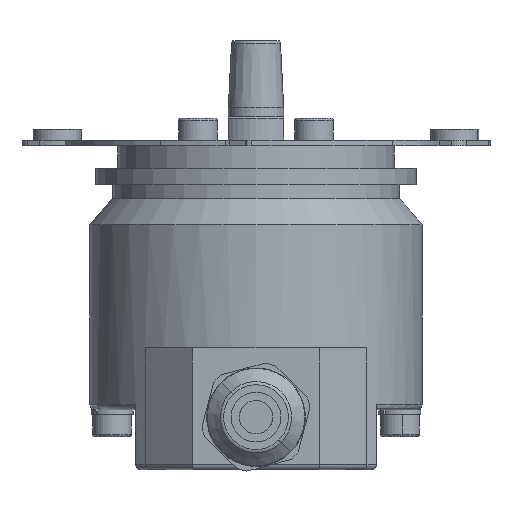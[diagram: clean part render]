
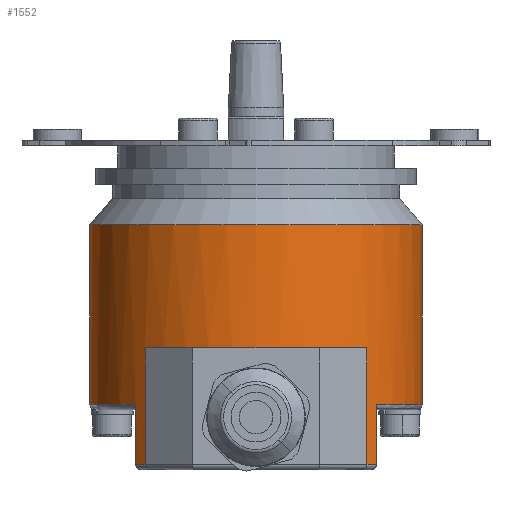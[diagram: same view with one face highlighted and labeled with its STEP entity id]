
A CAD part, front view. The second image highlights one B-rep face of the part: STEP entity #1552.
In plain terms, the highlighted cylindrical face has radius 30 mm (diameter 60 mm), a partial arc.
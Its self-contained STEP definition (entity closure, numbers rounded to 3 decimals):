
#116 = CARTESIAN_POINT ( 'NONE',  ( -20.053, -22.313, -57.5 ) ) ;
#254 = DIRECTION ( 'NONE',  ( 0., 0., -1. ) ) ;
#425 = CARTESIAN_POINT ( 'NONE',  ( 30., 0., -36. ) ) ;
#471 = LINE ( 'NONE', #2614, #2946 ) ;
#473 = VERTEX_POINT ( 'NONE', #10391 ) ;
#494 = ORIENTED_EDGE ( 'NONE', *, *, #14338, .F. ) ;
#727 = DIRECTION ( 'NONE',  ( 1., 0., 0. ) ) ;
#795 = CIRCLE ( 'NONE', #9573, 30. ) ;
#845 = DIRECTION ( 'NONE',  ( 0., 0., -1. ) ) ;
#1185 = EDGE_CURVE ( 'NONE', #7474, #14025, #14586, .T. ) ;
#1333 = ORIENTED_EDGE ( 'NONE', *, *, #8018, .F. ) ;
#1552 = ADVANCED_FACE ( 'NONE', ( #8871 ), #2436, .T. ) ;
#1557 = VECTOR ( 'NONE', #8035, 1000. ) ;
#1564 = CARTESIAN_POINT ( 'NONE',  ( 30., 0., -46.7 ) ) ;
#1631 = VERTEX_POINT ( 'NONE', #1564 ) ;
#1703 = CARTESIAN_POINT ( 'NONE',  ( 21.75, -20.662, -57.5 ) ) ;
#1784 = VERTEX_POINT ( 'NONE', #7741 ) ;
#2210 = CARTESIAN_POINT ( 'NONE',  ( 0., 0., -46.7 ) ) ;
#2267 = AXIS2_PLACEMENT_3D ( 'NONE', #7006, #3226, #11517 ) ;
#2436 = CYLINDRICAL_SURFACE ( 'NONE', #2267, 30. ) ;
#2569 = DIRECTION ( 'NONE',  ( 0., 0., 1. ) ) ;
#2614 = CARTESIAN_POINT ( 'NONE',  ( -20.053, -22.313, -79.976 ) ) ;
#2783 = ORIENTED_EDGE ( 'NONE', *, *, #1185, .T. ) ;
#2946 = VECTOR ( 'NONE', #9451, 1000. ) ;
#2986 = DIRECTION ( 'NONE',  ( 0., 0., 1. ) ) ;
#3022 = CARTESIAN_POINT ( 'NONE',  ( -21.75, -20.662, -46.7 ) ) ;
#3102 = EDGE_CURVE ( 'NONE', #6754, #473, #13677, .T. ) ;
#3182 = AXIS2_PLACEMENT_3D ( 'NONE', #5384, #2986, #10728 ) ;
#3216 = VERTEX_POINT ( 'NONE', #13174 ) ;
#3226 = DIRECTION ( 'NONE',  ( 0., 0., 1. ) ) ;
#3519 = VERTEX_POINT ( 'NONE', #13524 ) ;
#3709 = AXIS2_PLACEMENT_3D ( 'NONE', #9399, #13038, #3906 ) ;
#3906 = DIRECTION ( 'NONE',  ( 1., 0., 0. ) ) ;
#4131 = VERTEX_POINT ( 'NONE', #1703 ) ;
#4195 = CARTESIAN_POINT ( 'NONE',  ( 21.75, -20.662, -36. ) ) ;
#4323 = DIRECTION ( 'NONE',  ( 0., 0., 1. ) ) ;
#4560 = ORIENTED_EDGE ( 'NONE', *, *, #13536, .T. ) ;
#4910 = VERTEX_POINT ( 'NONE', #11980 ) ;
#5384 = CARTESIAN_POINT ( 'NONE',  ( 0., 0., -36.5 ) ) ;
#5597 = EDGE_CURVE ( 'NONE', #1631, #473, #13856, .T. ) ;
#5656 = DIRECTION ( 'NONE',  ( -1., 0., 0. ) ) ;
#5710 = DIRECTION ( 'NONE',  ( 0., 0., 1. ) ) ;
#5743 = ORIENTED_EDGE ( 'NONE', *, *, #6612, .T. ) ;
#6117 = CARTESIAN_POINT ( 'NONE',  ( 20.053, -22.313, -57.5 ) ) ;
#6403 = ORIENTED_EDGE ( 'NONE', *, *, #11243, .T. ) ;
#6414 = VECTOR ( 'NONE', #5710, 1000. ) ;
#6612 = EDGE_CURVE ( 'NONE', #4910, #11775, #795, .T. ) ;
#6754 = VERTEX_POINT ( 'NONE', #14636 ) ;
#6764 = CIRCLE ( 'NONE', #12417, 30. ) ;
#6781 = LINE ( 'NONE', #10175, #1557 ) ;
#6820 = LINE ( 'NONE', #12932, #6414 ) ;
#7006 = CARTESIAN_POINT ( 'NONE',  ( 0., 0., -36. ) ) ;
#7295 = CARTESIAN_POINT ( 'NONE',  ( 0., 0., -57.5 ) ) ;
#7379 = EDGE_CURVE ( 'NONE', #1784, #1631, #6764, .T. ) ;
#7474 = VERTEX_POINT ( 'NONE', #9054 ) ;
#7741 = CARTESIAN_POINT ( 'NONE',  ( 21.75, -20.662, -46.7 ) ) ;
#7805 = ORIENTED_EDGE ( 'NONE', *, *, #14688, .F. ) ;
#8018 = EDGE_CURVE ( 'NONE', #1784, #4131, #13312, .T. ) ;
#8035 = DIRECTION ( 'NONE',  ( 0., 0., 1. ) ) ;
#8048 = VECTOR ( 'NONE', #2569, 1000. ) ;
#8111 = DIRECTION ( 'NONE',  ( 1., 0., 0. ) ) ;
#8201 = CIRCLE ( 'NONE', #3182, 30. ) ;
#8217 = LINE ( 'NONE', #10352, #10000 ) ;
#8871 = FACE_OUTER_BOUND ( 'NONE', #10137, .T. ) ;
#8879 = ORIENTED_EDGE ( 'NONE', *, *, #3102, .F. ) ;
#9054 = CARTESIAN_POINT ( 'NONE',  ( -30., 0., -46.7 ) ) ;
#9388 = ORIENTED_EDGE ( 'NONE', *, *, #7379, .T. ) ;
#9399 = CARTESIAN_POINT ( 'NONE',  ( 0., 0., -14.2 ) ) ;
#9451 = DIRECTION ( 'NONE',  ( 0., 0., 1. ) ) ;
#9573 = AXIS2_PLACEMENT_3D ( 'NONE', #10915, #10005, #727 ) ;
#9858 = CARTESIAN_POINT ( 'NONE',  ( 0., 0., -46.7 ) ) ;
#9911 = AXIS2_PLACEMENT_3D ( 'NONE', #7295, #13948, #8111 ) ;
#9930 = DIRECTION ( 'NONE',  ( 0., 0., 1. ) ) ;
#10000 = VECTOR ( 'NONE', #254, 1000. ) ;
#10005 = DIRECTION ( 'NONE',  ( 0., 0., 1. ) ) ;
#10009 = EDGE_CURVE ( 'NONE', #11077, #4131, #14394, .T. ) ;
#10137 = EDGE_LOOP ( 'NONE', ( #7805, #2783, #4560, #6403, #12201, #5743, #10485, #494, #12000, #1333, #9388, #14126, #8879 ) ) ;
#10164 = DIRECTION ( 'NONE',  ( 1., 0., 0. ) ) ;
#10175 = CARTESIAN_POINT ( 'NONE',  ( -30., 0., -36. ) ) ;
#10352 = CARTESIAN_POINT ( 'NONE',  ( -21.75, -20.662, -36. ) ) ;
#10391 = CARTESIAN_POINT ( 'NONE',  ( 30., 0., -14.2 ) ) ;
#10485 = ORIENTED_EDGE ( 'NONE', *, *, #10707, .T. ) ;
#10623 = EDGE_CURVE ( 'NONE', #13104, #4910, #471, .T. ) ;
#10707 = EDGE_CURVE ( 'NONE', #11775, #3519, #8201, .T. ) ;
#10728 = DIRECTION ( 'NONE',  ( 1., 0., 0. ) ) ;
#10915 = CARTESIAN_POINT ( 'NONE',  ( 0., 0., -36.5 ) ) ;
#10982 = DIRECTION ( 'NONE',  ( -1., 0., 0. ) ) ;
#11077 = VERTEX_POINT ( 'NONE', #6117 ) ;
#11243 = EDGE_CURVE ( 'NONE', #3216, #13104, #11953, .T. ) ;
#11353 = DIRECTION ( 'NONE',  ( 0., 0., 1. ) ) ;
#11457 = AXIS2_PLACEMENT_3D ( 'NONE', #13573, #4323, #10164 ) ;
#11517 = DIRECTION ( 'NONE',  ( 1., 0., 0. ) ) ;
#11775 = VERTEX_POINT ( 'NONE', #14591 ) ;
#11953 = CIRCLE ( 'NONE', #11457, 30. ) ;
#11980 = CARTESIAN_POINT ( 'NONE',  ( -20.053, -22.313, -36.5 ) ) ;
#11997 = AXIS2_PLACEMENT_3D ( 'NONE', #9858, #9930, #10982 ) ;
#12000 = ORIENTED_EDGE ( 'NONE', *, *, #10009, .T. ) ;
#12201 = ORIENTED_EDGE ( 'NONE', *, *, #10623, .T. ) ;
#12417 = AXIS2_PLACEMENT_3D ( 'NONE', #2210, #11353, #5656 ) ;
#12450 = VECTOR ( 'NONE', #845, 1000. ) ;
#12932 = CARTESIAN_POINT ( 'NONE',  ( 20.053, -22.313, -79.976 ) ) ;
#13038 = DIRECTION ( 'NONE',  ( 0., 0., 1. ) ) ;
#13104 = VERTEX_POINT ( 'NONE', #116 ) ;
#13174 = CARTESIAN_POINT ( 'NONE',  ( -21.75, -20.662, -57.5 ) ) ;
#13312 = LINE ( 'NONE', #4195, #12450 ) ;
#13524 = CARTESIAN_POINT ( 'NONE',  ( 20.053, -22.313, -36.5 ) ) ;
#13536 = EDGE_CURVE ( 'NONE', #14025, #3216, #8217, .T. ) ;
#13573 = CARTESIAN_POINT ( 'NONE',  ( 0., 0., -57.5 ) ) ;
#13677 = CIRCLE ( 'NONE', #3709, 30. ) ;
#13856 = LINE ( 'NONE', #425, #8048 ) ;
#13948 = DIRECTION ( 'NONE',  ( 0., 0., 1. ) ) ;
#14025 = VERTEX_POINT ( 'NONE', #3022 ) ;
#14126 = ORIENTED_EDGE ( 'NONE', *, *, #5597, .T. ) ;
#14338 = EDGE_CURVE ( 'NONE', #11077, #3519, #6820, .T. ) ;
#14394 = CIRCLE ( 'NONE', #9911, 30. ) ;
#14586 = CIRCLE ( 'NONE', #11997, 30. ) ;
#14591 = CARTESIAN_POINT ( 'NONE',  ( 0., -30., -36.5 ) ) ;
#14636 = CARTESIAN_POINT ( 'NONE',  ( -30., 0., -14.2 ) ) ;
#14688 = EDGE_CURVE ( 'NONE', #7474, #6754, #6781, .T. ) ;
